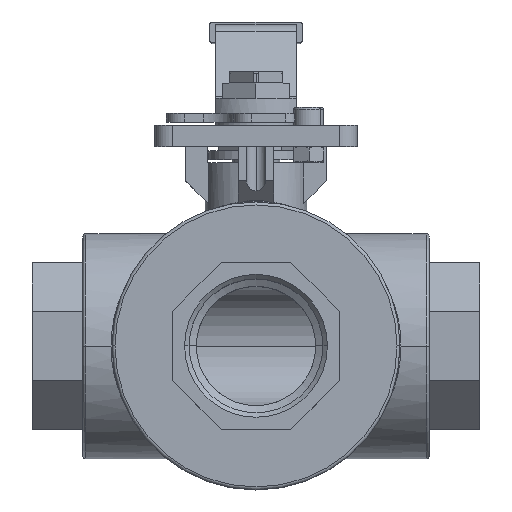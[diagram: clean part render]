
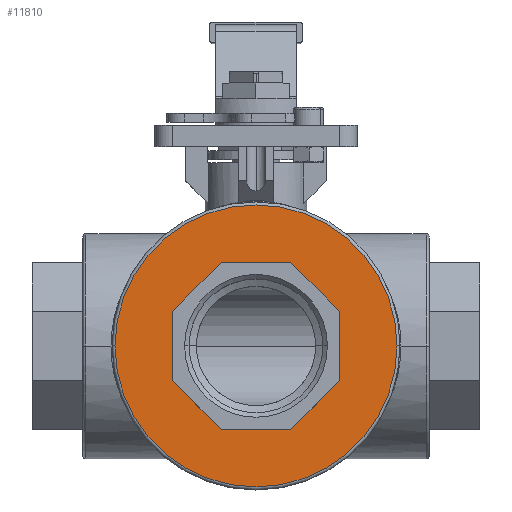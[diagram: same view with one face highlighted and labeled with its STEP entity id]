
A CAD part, top view. The second image highlights one B-rep face of the part: STEP entity #11810.
In plain terms, the highlighted planar face has unit normal (0, 0, 1).
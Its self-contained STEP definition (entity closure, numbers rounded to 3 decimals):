
#331 = VECTOR ( 'NONE', #9017, 1000. ) ;
#408 = CARTESIAN_POINT ( 'NONE',  ( -11.598, 28., 58. ) ) ;
#649 = CARTESIAN_POINT ( 'NONE',  ( -11.598, -28., 58. ) ) ;
#678 = DIRECTION ( 'NONE',  ( 1., 0., 0. ) ) ;
#719 = EDGE_LOOP ( 'NONE', ( #3324, #890 ) ) ;
#812 = CARTESIAN_POINT ( 'NONE',  ( -28., 11.598, 58. ) ) ;
#890 = ORIENTED_EDGE ( 'NONE', *, *, #7602, .T. ) ;
#935 = LINE ( 'NONE', #812, #13127 ) ;
#940 = DIRECTION ( 'NONE',  ( 0.707, 0.707, 0. ) ) ;
#1126 = CARTESIAN_POINT ( 'NONE',  ( 28., 11.598, 58. ) ) ;
#1127 = CARTESIAN_POINT ( 'NONE',  ( -11.598, -28., 58. ) ) ;
#1172 = EDGE_CURVE ( 'NONE', #1353, #10023, #11682, .T. ) ;
#1353 = VERTEX_POINT ( 'NONE', #12454 ) ;
#1526 = AXIS2_PLACEMENT_3D ( 'NONE', #10019, #2792, #6967 ) ;
#1637 = ORIENTED_EDGE ( 'NONE', *, *, #1172, .F. ) ;
#1717 = CARTESIAN_POINT ( 'NONE',  ( -28., -11.598, 58. ) ) ;
#2009 = ORIENTED_EDGE ( 'NONE', *, *, #6579, .F. ) ;
#2192 = EDGE_LOOP ( 'NONE', ( #4067, #9313, #11138, #9617, #2009, #1637, #3509, #3968 ) ) ;
#2351 = FACE_OUTER_BOUND ( 'NONE', #719, .T. ) ;
#2457 = LINE ( 'NONE', #649, #331 ) ;
#2500 = VECTOR ( 'NONE', #2589, 1000. ) ;
#2589 = DIRECTION ( 'NONE',  ( 0., 1., 0. ) ) ;
#2621 = EDGE_CURVE ( 'NONE', #8794, #1353, #935, .T. ) ;
#2792 = DIRECTION ( 'NONE',  ( 0., 0., 1. ) ) ;
#2905 = DIRECTION ( 'NONE',  ( 0.707, -0.707, 0. ) ) ;
#3180 = VERTEX_POINT ( 'NONE', #1126 ) ;
#3324 = ORIENTED_EDGE ( 'NONE', *, *, #3487, .T. ) ;
#3365 = DIRECTION ( 'NONE',  ( -1., 0., 0. ) ) ;
#3398 = VECTOR ( 'NONE', #2905, 1000. ) ;
#3409 = CARTESIAN_POINT ( 'NONE',  ( 11.598, 28., 58. ) ) ;
#3487 = EDGE_CURVE ( 'NONE', #9468, #4561, #5789, .T. ) ;
#3509 = ORIENTED_EDGE ( 'NONE', *, *, #2621, .F. ) ;
#3740 = DIRECTION ( 'NONE',  ( -0.707, 0.707, 0. ) ) ;
#3765 = DIRECTION ( 'NONE',  ( -0.707, -0.707, 0. ) ) ;
#3930 = PLANE ( 'NONE',  #7155 ) ;
#3968 = ORIENTED_EDGE ( 'NONE', *, *, #13189, .F. ) ;
#4067 = ORIENTED_EDGE ( 'NONE', *, *, #6347, .F. ) ;
#4295 = LINE ( 'NONE', #9955, #12250 ) ;
#4400 = CIRCLE ( 'NONE', #1526, 47.25 ) ;
#4424 = LINE ( 'NONE', #4857, #5248 ) ;
#4561 = VERTEX_POINT ( 'NONE', #8648 ) ;
#4713 = VERTEX_POINT ( 'NONE', #9898 ) ;
#4745 = EDGE_CURVE ( 'NONE', #7567, #3180, #9492, .T. ) ;
#4785 = DIRECTION ( 'NONE',  ( 0., 0., 1. ) ) ;
#4857 = CARTESIAN_POINT ( 'NONE',  ( -11.598, 28., 58. ) ) ;
#4875 = EDGE_CURVE ( 'NONE', #4713, #7567, #7205, .T. ) ;
#4976 = CARTESIAN_POINT ( 'NONE',  ( 0., 0., 58. ) ) ;
#5138 = CARTESIAN_POINT ( 'NONE',  ( 11.598, -28., 58. ) ) ;
#5248 = VECTOR ( 'NONE', #3765, 1000. ) ;
#5353 = CARTESIAN_POINT ( 'NONE',  ( 47.25, 0., 58. ) ) ;
#5447 = FACE_BOUND ( 'NONE', #2192, .T. ) ;
#5572 = AXIS2_PLACEMENT_3D ( 'NONE', #13155, #8918, #10021 ) ;
#5789 = CIRCLE ( 'NONE', #5572, 47.25 ) ;
#6347 = EDGE_CURVE ( 'NONE', #11558, #10805, #11410, .T. ) ;
#6579 = EDGE_CURVE ( 'NONE', #10023, #4713, #2457, .T. ) ;
#6645 = CARTESIAN_POINT ( 'NONE',  ( 28., -11.598, 58. ) ) ;
#6806 = CARTESIAN_POINT ( 'NONE',  ( 11.598, 28., 58. ) ) ;
#6967 = DIRECTION ( 'NONE',  ( 1., 0., 0. ) ) ;
#7155 = AXIS2_PLACEMENT_3D ( 'NONE', #4976, #4785, #678 ) ;
#7205 = LINE ( 'NONE', #5138, #7542 ) ;
#7542 = VECTOR ( 'NONE', #940, 1000. ) ;
#7567 = VERTEX_POINT ( 'NONE', #6645 ) ;
#7602 = EDGE_CURVE ( 'NONE', #4561, #9468, #4400, .T. ) ;
#8093 = DIRECTION ( 'NONE',  ( 0., -1., 0. ) ) ;
#8437 = CARTESIAN_POINT ( 'NONE',  ( -28., 11.598, 58. ) ) ;
#8648 = CARTESIAN_POINT ( 'NONE',  ( -47.25, 0., 58. ) ) ;
#8794 = VERTEX_POINT ( 'NONE', #8437 ) ;
#8918 = DIRECTION ( 'NONE',  ( 0., 0., 1. ) ) ;
#8964 = VECTOR ( 'NONE', #3365, 1000. ) ;
#9017 = DIRECTION ( 'NONE',  ( 1., 0., 0. ) ) ;
#9313 = ORIENTED_EDGE ( 'NONE', *, *, #12585, .F. ) ;
#9468 = VERTEX_POINT ( 'NONE', #5353 ) ;
#9492 = LINE ( 'NONE', #11004, #2500 ) ;
#9617 = ORIENTED_EDGE ( 'NONE', *, *, #4875, .F. ) ;
#9898 = CARTESIAN_POINT ( 'NONE',  ( 11.598, -28., 58. ) ) ;
#9955 = CARTESIAN_POINT ( 'NONE',  ( 28., 11.598, 58. ) ) ;
#10019 = CARTESIAN_POINT ( 'NONE',  ( 0., 0., 58. ) ) ;
#10021 = DIRECTION ( 'NONE',  ( 1., 0., 0. ) ) ;
#10023 = VERTEX_POINT ( 'NONE', #1127 ) ;
#10805 = VERTEX_POINT ( 'NONE', #408 ) ;
#11004 = CARTESIAN_POINT ( 'NONE',  ( 28., -11.598, 58. ) ) ;
#11138 = ORIENTED_EDGE ( 'NONE', *, *, #4745, .F. ) ;
#11410 = LINE ( 'NONE', #3409, #8964 ) ;
#11558 = VERTEX_POINT ( 'NONE', #6806 ) ;
#11682 = LINE ( 'NONE', #1717, #3398 ) ;
#11810 = ADVANCED_FACE ( 'NONE', ( #2351, #5447 ), #3930, .T. ) ;
#12250 = VECTOR ( 'NONE', #3740, 1000. ) ;
#12454 = CARTESIAN_POINT ( 'NONE',  ( -28., -11.598, 58. ) ) ;
#12585 = EDGE_CURVE ( 'NONE', #3180, #11558, #4295, .T. ) ;
#13127 = VECTOR ( 'NONE', #8093, 1000. ) ;
#13155 = CARTESIAN_POINT ( 'NONE',  ( 0., 0., 58. ) ) ;
#13189 = EDGE_CURVE ( 'NONE', #10805, #8794, #4424, .T. ) ;
